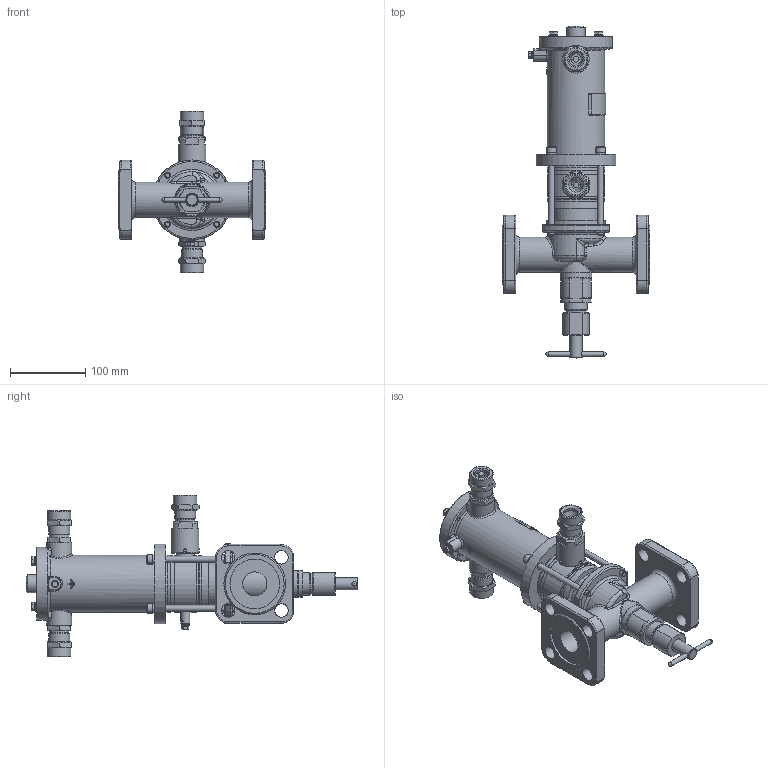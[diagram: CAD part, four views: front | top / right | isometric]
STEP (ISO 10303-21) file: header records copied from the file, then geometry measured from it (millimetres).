
FILE_DESCRIPTION(('STEP AP203'), '1');
FILE_NAME('ÑÅÍÑ-ÏÐ DN32PN25-ÄÏ1-ÑÂ.stp', '2018-10-09T08:06:44', ('Îðëîâ Å.Â.'), ('ÎÎÎ ÍÏÏ Ñåíñîð'), 'ASCON STEP Converter 1.3', 'Kompas 3D', '');
FILE_SCHEMA(('CONFIG_CONTROL_DESIGN','SUPPORT_RESOURCE_SCHEMA'));
Length unit declared in the file: millimetre
Products named in the file (1): 53
Bounding box: 196 x 440.66 x 215 mm (x, y, z)
Volume: 1351042.1 mm3; surface area: 400425.5 mm2
Topology: 3 solids, 26 shells, 2175 faces, 5649 edges, 3657 vertices
Faces by surface type: cylinder 1086, plane 805, cone 161, torus 55, bspline 50, extrusion 16, sphere 2
Full cylindrical faces by diameter (mm): 2.459 x1, 3.5 x2, 4.134 x6, 4.917 x4, 5 x2, 5.3 x1, 6 x13, 6.2 x1, 6.5 x4, 8 x14, 8.2 x1, 8.5 x1, 9 x4, 10 x2, 11 x1, 12 x6, 13 x8, 16 x3, 16.004 x2, 17 x2, 17.5 x1, 18 x9, 18.632 x2, 19.9 x1, 20 x3, 21 x1, 22 x2, 22.376 x2, 23 x2, 23.5 x3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
Entity records: 83568 total; most frequent: CARTESIAN_POINT 29241, DIRECTION 11749, ORIENTED_EDGE 11222, EDGE_CURVE 5611, AXIS2_PLACEMENT_3D 4547, VERTEX_POINT 3649, VECTOR 2655, LINE 2639
